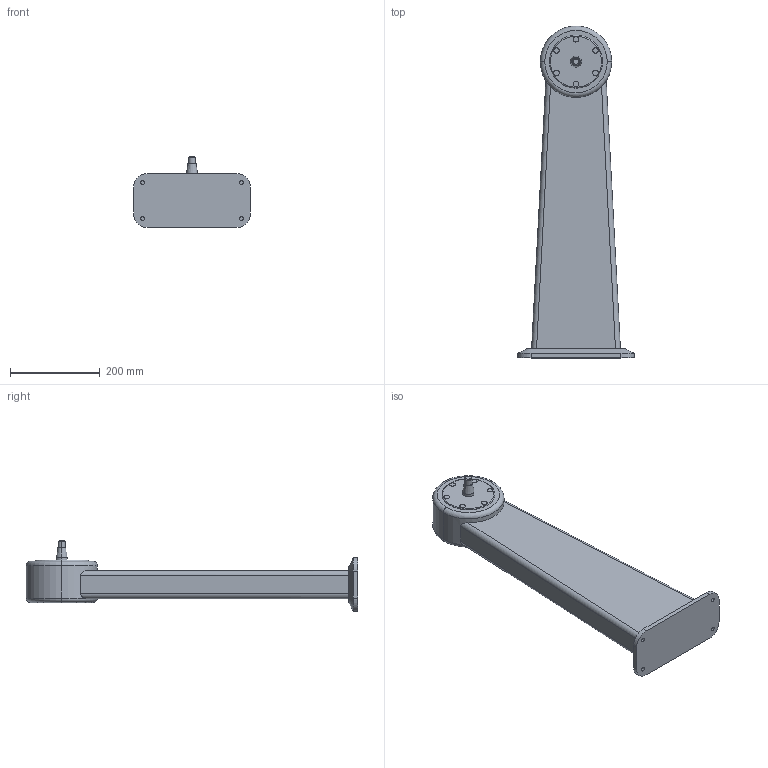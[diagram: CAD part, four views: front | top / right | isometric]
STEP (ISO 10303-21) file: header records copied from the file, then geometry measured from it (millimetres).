
FILE_DESCRIPTION (( 'STEP AP214' ), '1' );
FILE_NAME ('WP700_H660_+00.STEP', '2014-08-14T09:47:13', ( '' ), ( '' ), 'SwSTEP 2.0', 'SolidWorks 2014', '' );
FILE_SCHEMA (( 'AUTOMOTIVE_DESIGN' ));
Length unit declared in the file: millimetre
Products named in the file (1): WP700_H660_+00
Bounding box: 260 x 739.5 x 158.3 mm (x, y, z)
Volume: 8311630.1 mm3; surface area: 388122.3 mm2
Topology: 1 solids, 1 shells, 79 faces, 171 edges, 108 vertices
Faces by surface type: cylinder 36, plane 29, cone 8, torus 6
Entity records: 2290 total; most frequent: CARTESIAN_POINT 471, DIRECTION 408, ORIENTED_EDGE 342, EDGE_CURVE 171, AXIS2_PLACEMENT_3D 167, VERTEX_POINT 108, EDGE_LOOP 93, CIRCLE 87
